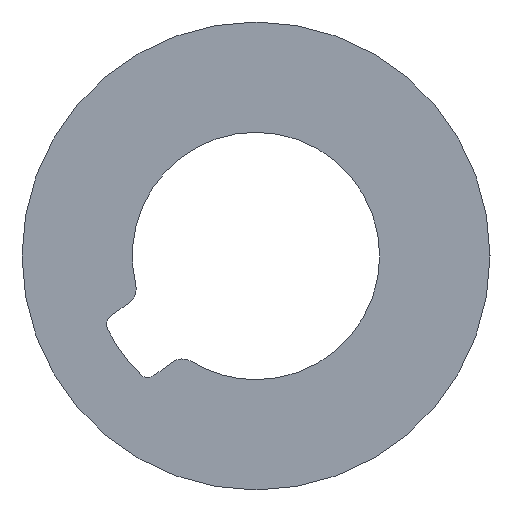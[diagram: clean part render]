
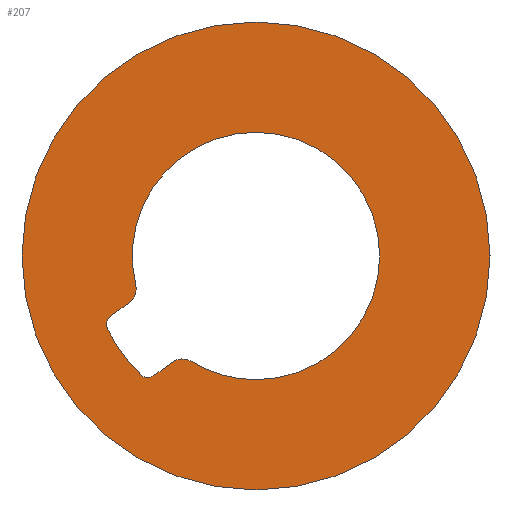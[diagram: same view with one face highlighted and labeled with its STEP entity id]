
A CAD part, left-side view. The second image highlights one B-rep face of the part: STEP entity #207.
In plain terms, the highlighted planar face has unit normal (-1, 0, 0).
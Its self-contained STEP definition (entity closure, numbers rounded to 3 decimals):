
#7 = ORIENTED_EDGE ( 'NONE', *, *, #293, .T. ) ;
#8 = ORIENTED_EDGE ( 'NONE', *, *, #262, .T. ) ;
#9 = ORIENTED_EDGE ( 'NONE', *, *, #292, .T. ) ;
#12 = ORIENTED_EDGE ( 'NONE', *, *, #294, .T. ) ;
#37 = CIRCLE ( 'NONE', #222, 0.3 ) ;
#39 = CIRCLE ( 'NONE', #223, 4.95 ) ;
#40 = CIRCLE ( 'NONE', #230, 0.3 ) ;
#42 = VECTOR ( 'NONE', #383, 1000. ) ;
#43 = CIRCLE ( 'NONE', #229, 0.5 ) ;
#44 = LINE ( 'NONE', #384, #42 ) ;
#45 = VECTOR ( 'NONE', #389, 1000. ) ;
#46 = CIRCLE ( 'NONE', #224, 7. ) ;
#47 = LINE ( 'NONE', #391, #45 ) ;
#61 = CIRCLE ( 'NONE', #233, 3.7 ) ;
#70 = CIRCLE ( 'NONE', #235, 3.7 ) ;
#76 = CIRCLE ( 'NONE', #237, 3.7 ) ;
#85 = CIRCLE ( 'NONE', #239, 7. ) ;
#97 = CIRCLE ( 'NONE', #242, 0.3 ) ;
#101 = CIRCLE ( 'NONE', #243, 0.5 ) ;
#105 = ORIENTED_EDGE ( 'NONE', *, *, #289, .T. ) ;
#106 = ORIENTED_EDGE ( 'NONE', *, *, #268, .F. ) ;
#107 = ORIENTED_EDGE ( 'NONE', *, *, #288, .F. ) ;
#108 = ORIENTED_EDGE ( 'NONE', *, *, #272, .T. ) ;
#109 = ORIENTED_EDGE ( 'NONE', *, *, #275, .T. ) ;
#110 = ORIENTED_EDGE ( 'NONE', *, *, #261, .T. ) ;
#111 = ORIENTED_EDGE ( 'NONE', *, *, #279, .T. ) ;
#112 = ORIENTED_EDGE ( 'NONE', *, *, #291, .T. ) ;
#113 = ORIENTED_EDGE ( 'NONE', *, *, #290, .T. ) ;
#130 = FACE_BOUND ( 'NONE', #160, .T. ) ;
#131 = FACE_OUTER_BOUND ( 'NONE', #158, .T. ) ;
#158 = EDGE_LOOP ( 'NONE', ( #107, #106 ) ) ;
#160 = EDGE_LOOP ( 'NONE', ( #105, #110, #109, #108, #111, #113, #112, #9, #8, #7, #12 ) ) ;
#207 = ADVANCED_FACE ( 'NONE', ( #131, #130 ), #450, .F. ) ;
#222 = AXIS2_PLACEMENT_3D ( 'NONE', #375, #374, #373 ) ;
#223 = AXIS2_PLACEMENT_3D ( 'NONE', #378, #377, #376 ) ;
#224 = AXIS2_PLACEMENT_3D ( 'NONE', #396, #394, #393 ) ;
#229 = AXIS2_PLACEMENT_3D ( 'NONE', #388, #386, #385 ) ;
#230 = AXIS2_PLACEMENT_3D ( 'NONE', #381, #380, #379 ) ;
#233 = AXIS2_PLACEMENT_3D ( 'NONE', #441, #440, #439 ) ;
#235 = AXIS2_PLACEMENT_3D ( 'NONE', #310, #308, #303 ) ;
#237 = AXIS2_PLACEMENT_3D ( 'NONE', #339, #336, #332 ) ;
#239 = AXIS2_PLACEMENT_3D ( 'NONE', #395, #392, #390 ) ;
#242 = AXIS2_PLACEMENT_3D ( 'NONE', #431, #430, #427 ) ;
#243 = AXIS2_PLACEMENT_3D ( 'NONE', #436, #434, #433 ) ;
#252 = AXIS2_PLACEMENT_3D ( 'NONE', #494, #483, #478 ) ;
#261 = EDGE_CURVE ( 'NONE', #510, #512, #101, .T. ) ;
#262 = EDGE_CURVE ( 'NONE', #523, #525, #97, .T. ) ;
#268 = EDGE_CURVE ( 'NONE', #521, #517, #85, .T. ) ;
#272 = EDGE_CURVE ( 'NONE', #503, #504, #76, .T. ) ;
#275 = EDGE_CURVE ( 'NONE', #512, #503, #70, .T. ) ;
#279 = EDGE_CURVE ( 'NONE', #504, #515, #61, .T. ) ;
#288 = EDGE_CURVE ( 'NONE', #517, #521, #46, .T. ) ;
#289 = EDGE_CURVE ( 'NONE', #513, #510, #47, .T. ) ;
#290 = EDGE_CURVE ( 'NONE', #515, #507, #43, .T. ) ;
#291 = EDGE_CURVE ( 'NONE', #507, #500, #44, .T. ) ;
#292 = EDGE_CURVE ( 'NONE', #500, #523, #40, .T. ) ;
#293 = EDGE_CURVE ( 'NONE', #525, #514, #39, .T. ) ;
#294 = EDGE_CURVE ( 'NONE', #514, #513, #37, .T. ) ;
#303 = DIRECTION ( 'NONE',  ( 0., 0., -1. ) ) ;
#308 = DIRECTION ( 'NONE',  ( 1., 0., 0. ) ) ;
#310 = CARTESIAN_POINT ( 'NONE',  ( -235.5, 0., 0. ) ) ;
#329 = CARTESIAN_POINT ( 'NONE',  ( -235.5, 3.444, -3.555 ) ) ;
#331 = CARTESIAN_POINT ( 'NONE',  ( -235.5, 3.236, -3.64 ) ) ;
#332 = DIRECTION ( 'NONE',  ( 0., 0., -1. ) ) ;
#334 = CARTESIAN_POINT ( 'NONE',  ( -235.5, 0., -7. ) ) ;
#336 = DIRECTION ( 'NONE',  ( 1., 0., 0. ) ) ;
#339 = CARTESIAN_POINT ( 'NONE',  ( -235.5, 0., 0. ) ) ;
#340 = CARTESIAN_POINT ( 'NONE',  ( -235.5, 0., 7. ) ) ;
#342 = CARTESIAN_POINT ( 'NONE',  ( -235.5, 1.939, -3.151 ) ) ;
#343 = CARTESIAN_POINT ( 'NONE',  ( -235.5, 4.445, -2.177 ) ) ;
#344 = CARTESIAN_POINT ( 'NONE',  ( -235.5, 4.352, -1.803 ) ) ;
#345 = CARTESIAN_POINT ( 'NONE',  ( -235.5, 3.596, -0.87 ) ) ;
#348 = CARTESIAN_POINT ( 'NONE',  ( -235.5, 3.788, -1.393 ) ) ;
#352 = CARTESIAN_POINT ( 'NONE',  ( -235.5, 2.495, -3.172 ) ) ;
#355 = CARTESIAN_POINT ( 'NONE',  ( -235.5, 0., -3.7 ) ) ;
#356 = CARTESIAN_POINT ( 'NONE',  ( -235.5, 0., 3.7 ) ) ;
#359 = CARTESIAN_POINT ( 'NONE',  ( -235.5, 3.059, -3.582 ) ) ;
#373 = DIRECTION ( 'NONE',  ( 0., 0., -1. ) ) ;
#374 = DIRECTION ( 'NONE',  ( 1., 0., 0. ) ) ;
#375 = CARTESIAN_POINT ( 'NONE',  ( -235.5, 4.176, -2.045 ) ) ;
#376 = DIRECTION ( 'NONE',  ( 0., 0., 1. ) ) ;
#377 = DIRECTION ( 'NONE',  ( 1., 0., 0. ) ) ;
#378 = CARTESIAN_POINT ( 'NONE',  ( -235.5, 0., 0. ) ) ;
#379 = DIRECTION ( 'NONE',  ( 0., 0., 1. ) ) ;
#380 = DIRECTION ( 'NONE',  ( 1., 0., 0. ) ) ;
#381 = CARTESIAN_POINT ( 'NONE',  ( -235.5, 3.236, -3.34 ) ) ;
#383 = DIRECTION ( 'NONE',  ( 0., 0.809, -0.588 ) ) ;
#384 = CARTESIAN_POINT ( 'NONE',  ( -235.5, 3.059, -3.582 ) ) ;
#385 = DIRECTION ( 'NONE',  ( 0., 0., -1. ) ) ;
#386 = DIRECTION ( 'NONE',  ( -1., 0., 0. ) ) ;
#388 = CARTESIAN_POINT ( 'NONE',  ( -235.5, 2.201, -3.577 ) ) ;
#389 = DIRECTION ( 'NONE',  ( 0., -0.809, 0.588 ) ) ;
#390 = DIRECTION ( 'NONE',  ( 0., 0., -1. ) ) ;
#391 = CARTESIAN_POINT ( 'NONE',  ( -235.5, 3.788, -1.393 ) ) ;
#392 = DIRECTION ( 'NONE',  ( 1., 0., 0. ) ) ;
#393 = DIRECTION ( 'NONE',  ( 0., 0., -1. ) ) ;
#394 = DIRECTION ( 'NONE',  ( 1., 0., 0. ) ) ;
#395 = CARTESIAN_POINT ( 'NONE',  ( -235.5, 0., 0. ) ) ;
#396 = CARTESIAN_POINT ( 'NONE',  ( -235.5, 0., 0. ) ) ;
#427 = DIRECTION ( 'NONE',  ( 0., 0., 1. ) ) ;
#430 = DIRECTION ( 'NONE',  ( 1., 0., 0. ) ) ;
#431 = CARTESIAN_POINT ( 'NONE',  ( -235.5, 3.236, -3.34 ) ) ;
#433 = DIRECTION ( 'NONE',  ( 0., 0., 1. ) ) ;
#434 = DIRECTION ( 'NONE',  ( -1., 0., 0. ) ) ;
#436 = CARTESIAN_POINT ( 'NONE',  ( -235.5, 4.082, -0.988 ) ) ;
#439 = DIRECTION ( 'NONE',  ( 0., 0., -1. ) ) ;
#440 = DIRECTION ( 'NONE',  ( 1., 0., 0. ) ) ;
#441 = CARTESIAN_POINT ( 'NONE',  ( -235.5, 0., 0. ) ) ;
#450 = PLANE ( 'NONE',  #252 ) ;
#478 = DIRECTION ( 'NONE',  ( 0., 0., -1. ) ) ;
#483 = DIRECTION ( 'NONE',  ( 1., 0., 0. ) ) ;
#494 = CARTESIAN_POINT ( 'NONE',  ( -235.5, 0., 0. ) ) ;
#500 = VERTEX_POINT ( 'NONE', #359 ) ;
#503 = VERTEX_POINT ( 'NONE', #356 ) ;
#504 = VERTEX_POINT ( 'NONE', #355 ) ;
#507 = VERTEX_POINT ( 'NONE', #352 ) ;
#510 = VERTEX_POINT ( 'NONE', #348 ) ;
#512 = VERTEX_POINT ( 'NONE', #345 ) ;
#513 = VERTEX_POINT ( 'NONE', #344 ) ;
#514 = VERTEX_POINT ( 'NONE', #343 ) ;
#515 = VERTEX_POINT ( 'NONE', #342 ) ;
#517 = VERTEX_POINT ( 'NONE', #340 ) ;
#521 = VERTEX_POINT ( 'NONE', #334 ) ;
#523 = VERTEX_POINT ( 'NONE', #331 ) ;
#525 = VERTEX_POINT ( 'NONE', #329 ) ;
